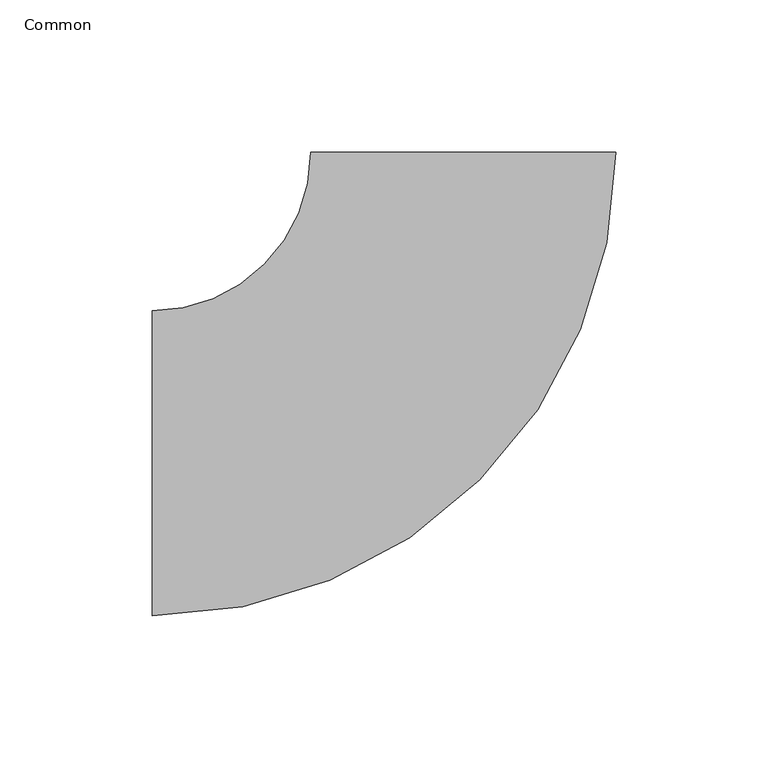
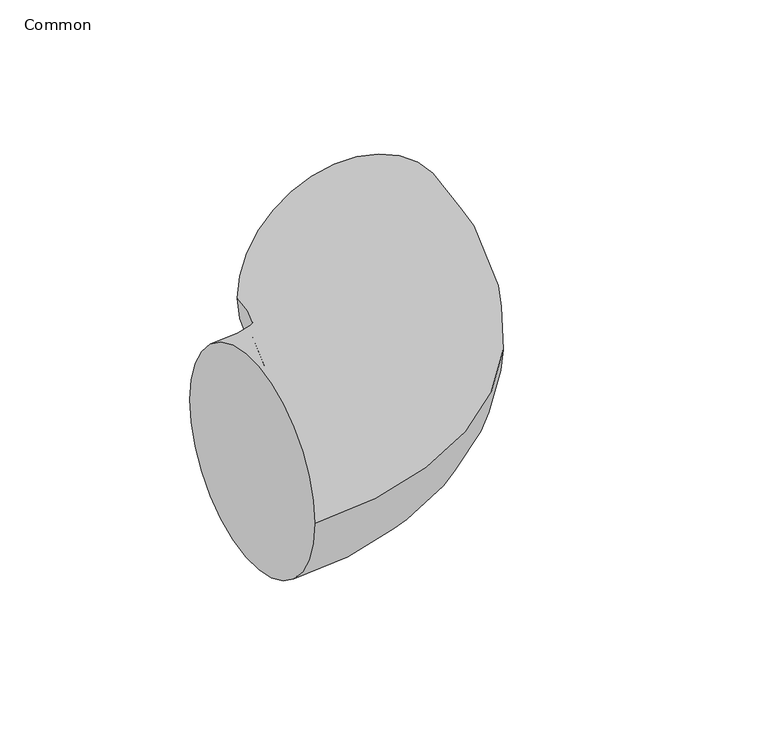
"""IFC4 building model written with IfcOpenShell, lengths in millimetres: pipe fitting geometry, 012_エルボ_冷媒管 : Common."""

from ifc_helpers import new_model, si_unit, point, frame, origin, place, context, project, spatial, circle_curve, ellipse_curve, trimmed, source, transform, mapped, element, save
from ifc_brep_helpers import plane_surface, revolved_surface, advanced_brep


def common_fe099fb8(model_context):
    return source(origin(), model_context, "Body", "AdvancedBrep", [
        advanced_brep(
        [(-102.0, -50.0, 0.0), (-102.0, 50.0, 0.0), (50.0, 102.0, 0.0), (-50.0, 102.0, 0.0)],
        [
            (0, 1, circle_curve(frame((-102.0, 0.0, 0.0), z_axis=(-1.0, 0.0, 0.0), x_axis=(0.0, 1.0, 0.0)), 50.0)),
            (1, 0, circle_curve(frame((-102.0, 0.0, 0.0), z_axis=(-1.0, 0.0, 0.0), x_axis=(0.0, 1.0, 0.0)), 50.0)),
            (2, 3, circle_curve(frame((0.0, 102.0, 0.0), z_axis=(0.0, 1.0, 0.0), x_axis=(-1.0, 0.0, 0.0)), 50.0)),
            (3, 2, circle_curve(frame((0.0, 102.0, 0.0), z_axis=(0.0, 1.0, 0.0), x_axis=(-1.0, 0.0, 0.0)), 50.0)),
            (3, 1, circle_curve(frame((-102.0, 102.0, 0.0), z_axis=(0.0, 0.0, -1.0), x_axis=(0.0, -1.0, 0.0)), 52.0)),
            (0, 2, circle_curve(frame((-102.0, 102.0, 0.0), z_axis=(0.0, 0.0, 1.0), x_axis=(0.0, -1.0, 0.0)), 152.0)),
        ],
        [
            plane_surface(frame((-102.0, 0.0, 0.0), z_axis=(-1.0, 0.0, 0.0), x_axis=(0.0, 0.0, 1.0))),
            plane_surface(frame((0.0, 102.0, 0.0), z_axis=(0.0, 1.0, 0.0), x_axis=(0.0, 0.0, 1.0))),
            revolved_surface(trimmed(ellipse_curve(frame((-102.0, 0.0, 0.0), z_axis=(-1.0, 0.0, 0.0), x_axis=(0.0, 1.0, 0.0)), 50.0, 50.0), [point((-102.0, -50.0, 0.0))], [point((-102.0, 50.0, 0.0))], True, "CARTESIAN"), (-102.0, 102.0, 0.0), (0.0, 0.0, 1.0)),
            revolved_surface(trimmed(ellipse_curve(frame((-102.0, 0.0, 0.0), z_axis=(-1.0, 0.0, 0.0), x_axis=(0.0, 1.0, 0.0)), 50.0, 50.0), [point((-102.0, 50.0, 0.0))], [point((-102.0, -50.0, 0.0))], True, "CARTESIAN"), (-102.0, 102.0, 0.0), (0.0, 0.0, 1.0)),
        ],
        [
            (0, [[1, 2]]),
            (1, [[3, 4]]),
            (2, [[5, -1, 6, -4]]),
            (3, [[-6, -2, -5, -3]]),
        ],
    ),
    ])


if __name__ == "__main__":
    model = new_model("IFC4")
    model_context = context("Model", 3, world=origin())
    ifc_project = project(units=[si_unit("LENGTHUNIT", "METRE", prefix="MILLI")], contexts=[model_context])
    site = spatial("IfcSite", under=ifc_project)
    building = spatial("IfcBuilding", under=site)
    placement = place(None, origin())
    common_shape = common_fe099fb8(model_context)
    element("IfcPipeFitting", 1, ObjectType="012_エルボ_冷媒管 : Common", at=placement, inside=building, context=model_context, shape_type="MappedRepresentation", body=[
        mapped(common_shape, transform((0.0, 0.0, 0.0), x_axis=(1.0, 0.0, 0.0), y_axis=(0.0, 1.0, 0.0), z_axis=(0.0, 0.0, 1.0))),
    ])
    save(model, "model.ifc")
